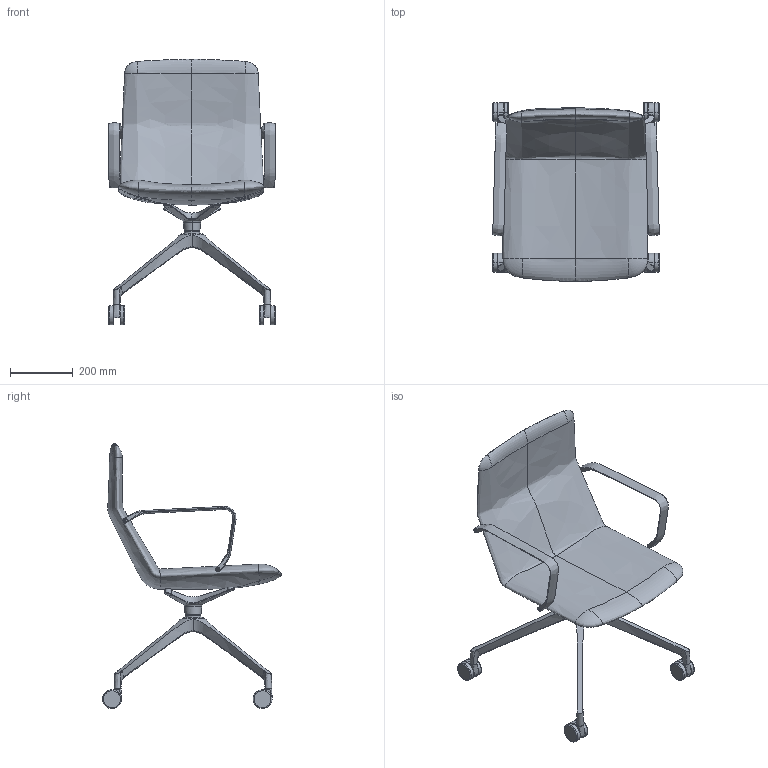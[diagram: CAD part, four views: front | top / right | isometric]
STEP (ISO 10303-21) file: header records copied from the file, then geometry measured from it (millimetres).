
FILE_DESCRIPTION(/* description */ (''),/* implementation_level */ '2;1');
FILE_NAME(/* name */ 'FLEXIC~1',/* time_stamp */ '2020-04-09T08:02:01+02:00',/* author */ (''),/* organization */ (''),/* preprocessor_version */ 'ST-DEVELOPER v16.5',/* originating_system */ '',/* authorisation */ '');
FILE_SCHEMA (('AUTOMOTIVE_DESIGN'));
Length unit declared in the file: millimetre
Products named in the file (1): Document
Bounding box: 529.02 x 568.24 x 842.49 mm (x, y, z)
Volume: 16919538.7 mm3; surface area: 1166320.6 mm2
Topology: 4 solids, 17 shells, 266 faces, 622 edges, 358 vertices
Faces by surface type: bspline 200, plane 66
Entity records: 24058 total; most frequent: CARTESIAN_POINT 20541, ORIENTED_EDGE 1136, EDGE_CURVE 594, VERTEX_POINT 358, EDGE_LOOP 278, ADVANCED_FACE 266, FACE_OUTER_BOUND 266, B_SPLINE_CURVE_WITH_KNOTS 216
